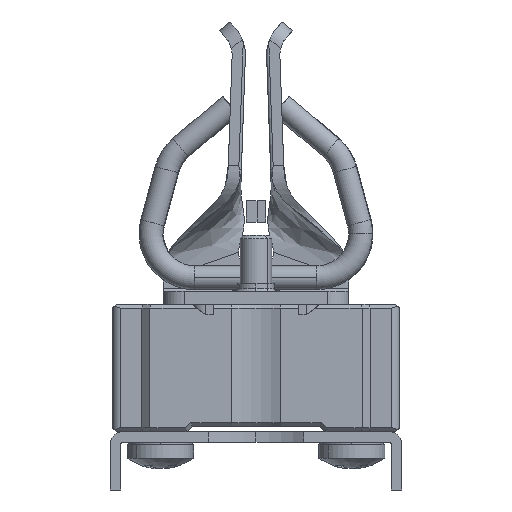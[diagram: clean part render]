
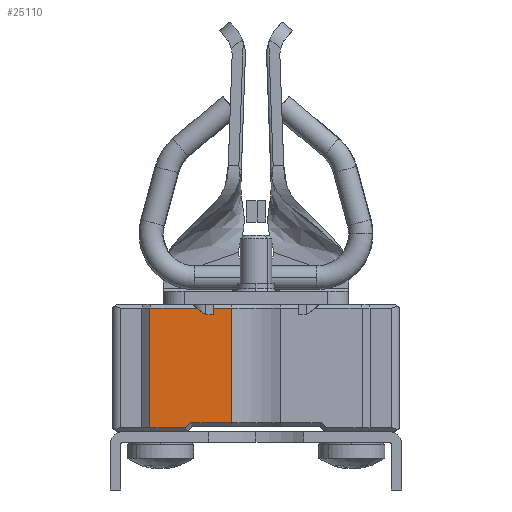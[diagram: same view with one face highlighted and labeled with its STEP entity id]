
A CAD part, left-side view. The second image highlights one B-rep face of the part: STEP entity #25110.
In plain terms, the highlighted planar face has unit normal (-1, 0, 0).
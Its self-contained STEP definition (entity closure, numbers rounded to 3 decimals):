
#4328 = CARTESIAN_POINT ( 'NONE',  ( -2., 40.79, 0.7 ) ) ;
#4479 = DIRECTION ( 'NONE',  ( 0., 1., 0. ) ) ;
#4480 = VECTOR ( 'NONE', #4479, 1000. ) ;
#4481 = CARTESIAN_POINT ( 'NONE',  ( -2., 47.5, 23.3 ) ) ;
#4483 = LINE ( 'NONE', #4481, #4480 ) ;
#4504 = CARTESIAN_POINT ( 'NONE',  ( -2., 47.5, 0.7 ) ) ;
#4505 = DIRECTION ( 'NONE',  ( 0., 0., 1. ) ) ;
#4506 = VECTOR ( 'NONE', #4505, 1000. ) ;
#4507 = CARTESIAN_POINT ( 'NONE',  ( -2., 47.5, 0. ) ) ;
#4512 = LINE ( 'NONE', #4507, #4506 ) ;
#4533 = CARTESIAN_POINT ( 'NONE',  ( -2., 39.79, 1.7 ) ) ;
#4549 = DIRECTION ( 'NONE',  ( 0., -1., 0. ) ) ;
#4550 = VECTOR ( 'NONE', #4549, 1000. ) ;
#4551 = CARTESIAN_POINT ( 'NONE',  ( -2., 47.5, 0.7 ) ) ;
#4552 = LINE ( 'NONE', #4551, #4550 ) ;
#4574 = DIRECTION ( 'NONE',  ( 0., -1., 0. ) ) ;
#4575 = VECTOR ( 'NONE', #4574, 1000. ) ;
#4576 = CARTESIAN_POINT ( 'NONE',  ( -2., 47.5, 1.7 ) ) ;
#4577 = LINE ( 'NONE', #4576, #4575 ) ;
#4716 = CARTESIAN_POINT ( 'NONE',  ( -2., 47.5, 23.3 ) ) ;
#4783 = CARTESIAN_POINT ( 'NONE',  ( -2., 32.083, 23.3 ) ) ;
#4784 = DIRECTION ( 'NONE',  ( 0., 0., 1. ) ) ;
#4785 = VECTOR ( 'NONE', #4784, 1000. ) ;
#4786 = CARTESIAN_POINT ( 'NONE',  ( -2., 32.083, 24. ) ) ;
#4787 = LINE ( 'NONE', #4786, #4785 ) ;
#4803 = FACE_OUTER_BOUND ( 'NONE', #25100, .T. ) ;
#4836 = DIRECTION ( 'NONE',  ( 0., 0., 1. ) ) ;
#4837 = DIRECTION ( 'NONE',  ( 1., 0., 0. ) ) ;
#4838 = CARTESIAN_POINT ( 'NONE',  ( -2., 47.5, 0. ) ) ;
#4839 = AXIS2_PLACEMENT_3D ( 'NONE', #4838, #4837, #4836 ) ;
#4841 = PLANE ( 'NONE',  #4839 ) ;
#4855 = DIRECTION ( 'NONE',  ( 0., -0.707, 0.707 ) ) ;
#4856 = VECTOR ( 'NONE', #4855, 1000. ) ;
#4857 = CARTESIAN_POINT ( 'NONE',  ( -2., 39.995, 1.495 ) ) ;
#4858 = LINE ( 'NONE', #4857, #4856 ) ;
#4859 = CARTESIAN_POINT ( 'NONE',  ( -2., 32.083, 1.7 ) ) ;
#24962 = VERTEX_POINT ( 'NONE', #4328 ) ;
#25009 = ORIENTED_EDGE ( 'NONE', *, *, #25011, .T. ) ;
#25011 = EDGE_CURVE ( 'NONE', #25092, #25084, #4483, .T. ) ;
#25014 = EDGE_CURVE ( 'NONE', #25015, #25084, #4512, .T. ) ;
#25015 = VERTEX_POINT ( 'NONE', #4504 ) ;
#25019 = ORIENTED_EDGE ( 'NONE', *, *, #25021, .T. ) ;
#25021 = EDGE_CURVE ( 'NONE', #25015, #24962, #4552, .T. ) ;
#25031 = VERTEX_POINT ( 'NONE', #4533 ) ;
#25038 = ORIENTED_EDGE ( 'NONE', *, *, #25114, .T. ) ;
#25044 = EDGE_CURVE ( 'NONE', #25031, #25112, #4577, .T. ) ;
#25076 = ORIENTED_EDGE ( 'NONE', *, *, #25014, .F. ) ;
#25083 = ORIENTED_EDGE ( 'NONE', *, *, #25044, .T. ) ;
#25084 = VERTEX_POINT ( 'NONE', #4716 ) ;
#25090 = ORIENTED_EDGE ( 'NONE', *, *, #25091, .T. ) ;
#25091 = EDGE_CURVE ( 'NONE', #25112, #25092, #4787, .T. ) ;
#25092 = VERTEX_POINT ( 'NONE', #4783 ) ;
#25100 = EDGE_LOOP ( 'NONE', ( #25038, #25083, #25090, #25009, #25076, #25019 ) ) ;
#25110 = ADVANCED_FACE ( 'NONE', ( #4803 ), #4841, .F. ) ;
#25112 = VERTEX_POINT ( 'NONE', #4859 ) ;
#25114 = EDGE_CURVE ( 'NONE', #24962, #25031, #4858, .T. ) ;
